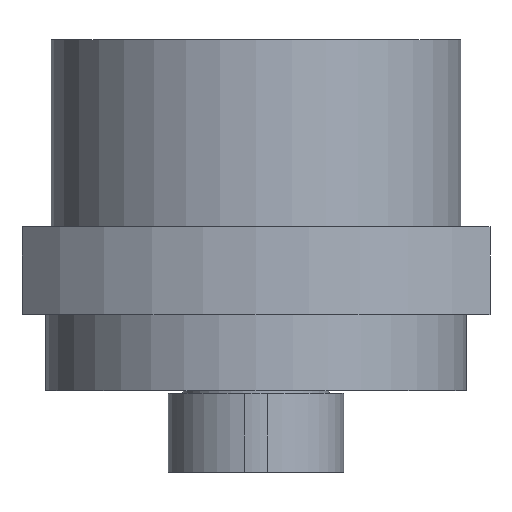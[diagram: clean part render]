
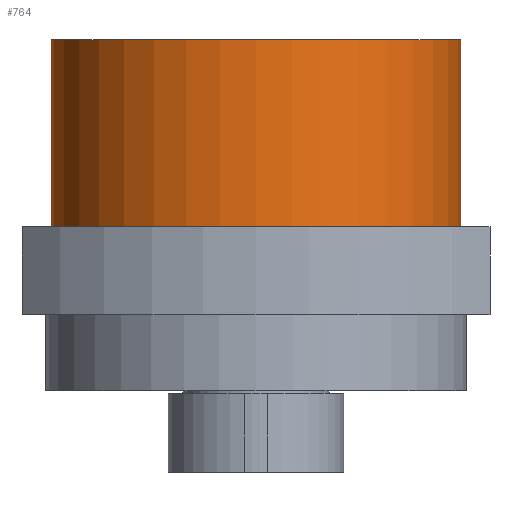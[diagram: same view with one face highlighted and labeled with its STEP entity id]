
A CAD part, front view. The second image highlights one B-rep face of the part: STEP entity #764.
In plain terms, the highlighted cylindrical face has radius 35 mm (diameter 70 mm), a full revolution.
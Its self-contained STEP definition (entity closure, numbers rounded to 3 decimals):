
#37=CYLINDRICAL_SURFACE($,#868,35.);
#141=FACE_BOUND($,#280,.T.);
#199=FACE_OUTER_BOUND($,#279,.T.);
#279=EDGE_LOOP($,(#653));
#280=EDGE_LOOP($,(#654));
#354=CIRCLE($,#869,35.);
#355=CIRCLE($,#870,35.);
#422=VERTEX_POINT($,#1313);
#423=VERTEX_POINT($,#1315);
#506=EDGE_CURVE($,#422,#422,#354,.T.);
#507=EDGE_CURVE($,#423,#423,#355,.T.);
#653=ORIENTED_EDGE($,*,*,#506,.F.);
#654=ORIENTED_EDGE($,*,*,#507,.F.);
#764=ADVANCED_FACE($,(#199,#141),#37,.T.);
#868=AXIS2_PLACEMENT_3D($,#1312,#1094,#1095);
#869=AXIS2_PLACEMENT_3D($,#1314,#1096,#1097);
#870=AXIS2_PLACEMENT_3D($,#1316,#1098,#1099);
#1094=DIRECTION('center_axis',(0.,0.,1.));
#1095=DIRECTION('ref_axis',(-1.,0.,0.));
#1096=DIRECTION('center_axis',(0.,0.,1.));
#1097=DIRECTION('ref_axis',(-1.,0.,0.));
#1098=DIRECTION('center_axis',(0.,0.,-1.));
#1099=DIRECTION('ref_axis',(-1.,0.,0.));
#1312=CARTESIAN_POINT('Origin',(0.,0.,16.));
#1313=CARTESIAN_POINT('',(35.,0.,48.));
#1314=CARTESIAN_POINT('Origin',(0.,0.,48.));
#1315=CARTESIAN_POINT('',(35.,0.,16.));
#1316=CARTESIAN_POINT('Origin',(0.,0.,16.));
